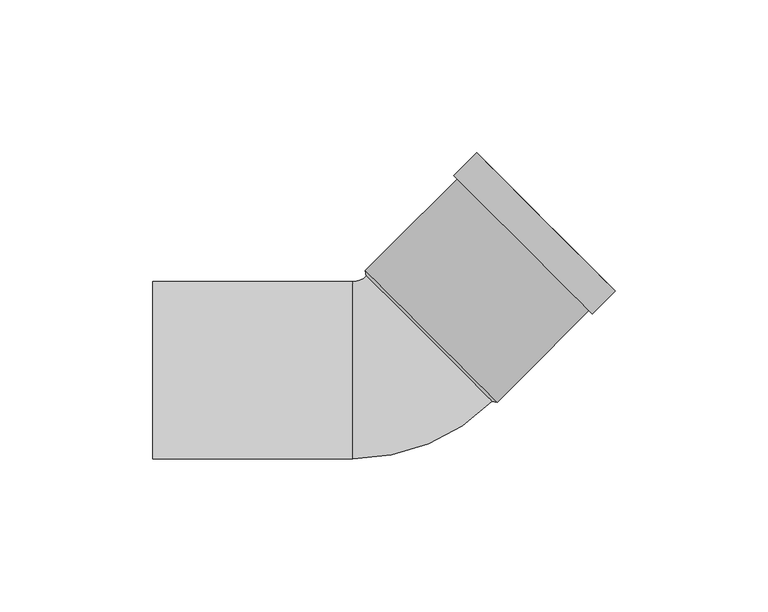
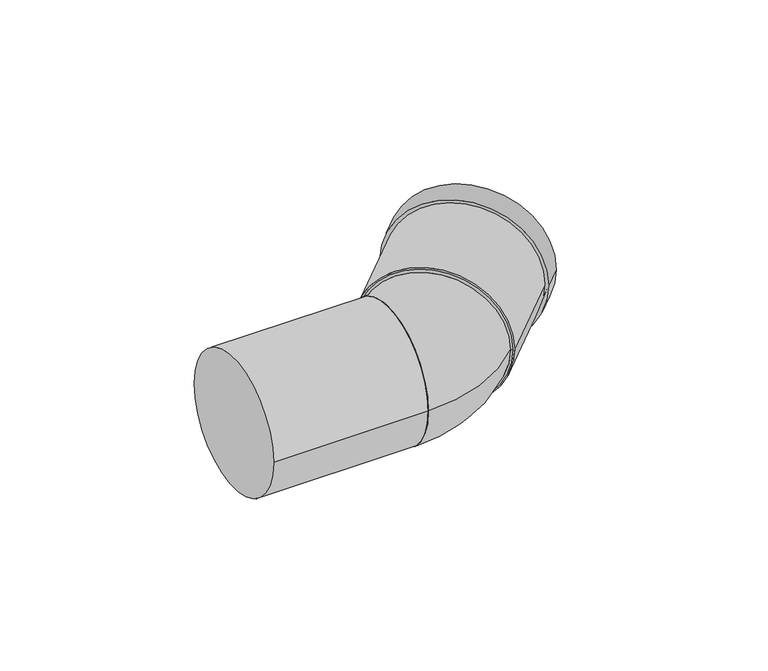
"""IFC4 building model written with IfcOpenShell, lengths in millimetres: pipe fitting geometry, Superdrain SKB Bend : Superdrain SKB Bend."""

from ifc_helpers import new_model, si_unit, point, frame, origin, origin_2d, place, context, project, spatial, polyline, circle_curve, ellipse_curve, trimmed, segment, composite_curve, outline, extrude, source, transform, mapped, element, save
from ifc_brep_helpers import plane_surface, revolved_surface, advanced_brep


def pipe_fitting_4f15ce90(model_context):
    return source(origin(), model_context, "Body", "SolidModel", [
        advanced_brep(
        [(30.8298557, -10.1823376, 0.0), (-10.1823376, 30.8298557, 0.0), (-14.6, -29.0, 0.0), (-14.6, 29.0, 0.0)],
        [
            (0, 1, circle_curve(frame((10.323759, 10.323759, 0.0), z_axis=(0.7071067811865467, 0.7071067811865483, 0.0), x_axis=(-0.7071067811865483, 0.7071067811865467, 0.0)), 29.0)),
            (1, 0, circle_curve(frame((10.323759, 10.323759, 0.0), z_axis=(0.7071067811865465, 0.7071067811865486, 0.0), x_axis=(-0.7071067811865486, 0.7071067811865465, 0.0)), 29.0)),
            (2, 3, circle_curve(frame((-14.6, 0.0, 0.0), z_axis=(-1.0, 0.0, 0.0), x_axis=(0.0, 1.0, 0.0)), 29.0)),
            (3, 2, circle_curve(frame((-14.6, 0.0, 0.0), z_axis=(-1.0, 0.0, 0.0), x_axis=(0.0, 1.0, 0.0)), 29.0)),
            (3, 1, circle_curve(frame((-14.6, 35.247518, 0.0), z_axis=(0.0, 0.0, 1.0), x_axis=(1.0, 0.0, 0.0)), 6.247518)),
            (0, 2, circle_curve(frame((-14.6, 35.247518, 0.0), z_axis=(0.0, 0.0, -1.0), x_axis=(1.0, 0.0, 0.0)), 64.247518)),
        ],
        [
            plane_surface(frame((10.323759, 10.323759, 0.0), z_axis=(0.7071067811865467, 0.7071067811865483, 0.0), x_axis=(0.0, 0.0, -1.0))),
            plane_surface(frame((-14.6, 0.0, 0.0), z_axis=(-1.0, 0.0, 0.0), x_axis=(0.0, 0.0, -1.0))),
            revolved_surface(trimmed(ellipse_curve(frame((20.647518, 35.247518, 0.0), z_axis=(0.0, -1.0, 0.0), x_axis=(-1.0, 0.0, 0.0)), 29.0, 29.0), [point((-8.352482, 35.247518, 0.0))], [point((49.647518, 35.247518, 0.0))], True, "CARTESIAN"), (-14.6, 35.247518, 0.0), (0.0, 0.0, 1.0)),
            revolved_surface(trimmed(ellipse_curve(frame((20.647518, 35.247518, 0.0), z_axis=(0.0, -1.0, 0.0), x_axis=(-1.0, 0.0, 0.0)), 29.0, 29.0), [point((49.647518, 35.247518, 0.0))], [point((-8.352482, 35.247518, 0.0))], True, "CARTESIAN"), (-14.6, 35.247518, 0.0), (0.0, 0.0, 1.0)),
        ],
        [
            (0, [[1, 2]]),
            (1, [[3, 4]]),
            (2, [[-4, 5, -1, 6]]),
            (3, [[-3, -6, -2, -5]]),
        ],
    ),
        extrude(outline(composite_curve([segment(trimmed(circle_curve(origin_2d(), 30.45), [point((0.0, 30.45))], [point((0.0, -30.45))], False, "CARTESIAN"), True, "CONTINUOUS"), segment(trimmed(circle_curve(origin_2d(), 30.45), [point((0.0, -30.45))], [point((0.0, 30.45))], False, "CARTESIAN"), True, "CONTINUOUS")], self_intersect=False), holes=[composite_curve([segment(trimmed(circle_curve(origin_2d(), 29.0), [point((0.0, 29.0))], [point((0.0, -29.0))], True, "CARTESIAN"), True, "CONTINUOUS"), segment(trimmed(circle_curve(origin_2d(), 29.0), [point((0.0, -29.0))], [point((0.0, 29.0))], True, "CARTESIAN"), True, "CONTINUOUS")], self_intersect=False)]), frame((11.0308658, 11.0308658, 0.0), z_axis=(0.7071067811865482, 0.7071067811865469, 0.0), x_axis=(0.0, 0.0, 1.0)), (0.0, 0.0, 1.0), 53.0),
        extrude(outline(composite_curve([segment(trimmed(circle_curve(origin_2d(), 31.9725), [point((0.0, -31.9725001))], [point((0.0, 31.9725001))], False, "CARTESIAN"), True, "CONTINUOUS"), segment(trimmed(circle_curve(origin_2d(), 31.9725), [point((0.0, 31.9725001))], [point((0.0, -31.9725001))], False, "CARTESIAN"), True, "CONTINUOUS")], self_intersect=False), holes=[composite_curve([segment(trimmed(circle_curve(origin_2d(), 29.0), [point((0.0, -29.0))], [point((0.0, 29.0))], True, "CARTESIAN"), True, "CONTINUOUS"), segment(trimmed(circle_curve(origin_2d(), 29.0), [point((0.0, 29.0))], [point((0.0, -29.0))], True, "CARTESIAN"), True, "CONTINUOUS")], self_intersect=False)]), frame((41.0121933, 41.0121933, 0.0), z_axis=(0.7071067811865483, 0.7071067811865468, 0.0), x_axis=(0.0, 0.0, 1.0)), (0.0, 0.0, 1.0), 10.6),
        advanced_brep(
        [(32.5622673, -10.5005357, 0.0), (-10.5005357, 32.5622673, 0.0), (30.8298557, -10.1823376, 0.0), (-10.1823376, 30.8298557, 0.0)],
        [
            (0, 1, circle_curve(frame((11.0308658, 11.0308658, 0.0), z_axis=(0.7071067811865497, 0.7071067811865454, 0.0), x_axis=(0.7071067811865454, -0.7071067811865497, 0.0)), 30.45)),
            (1, 0, circle_curve(frame((11.0308658, 11.0308658, 0.0), z_axis=(0.7071067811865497, 0.7071067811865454, 0.0), x_axis=(-0.7071067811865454, 0.7071067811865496, 0.0)), 30.45)),
            (2, 3, circle_curve(frame((10.323759, 10.323759, 0.0), z_axis=(-0.7071067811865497, -0.7071067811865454, 0.0), x_axis=(-0.7071067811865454, 0.7071067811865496, 0.0)), 29.0)),
            (3, 2, circle_curve(frame((10.323759, 10.323759, 0.0), z_axis=(-0.7071067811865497, -0.7071067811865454, 0.0), x_axis=(0.7071067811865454, -0.7071067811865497, 0.0)), 29.0)),
            (3, 1),
            (0, 2),
        ],
        [
            plane_surface(frame((11.0308658, 11.0308658, 0.0), z_axis=(0.7071067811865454, 0.7071067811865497, 0.0), x_axis=(0.0, 0.0, -1.0))),
            plane_surface(frame((10.323759, 10.323759, 0.0), z_axis=(-0.7071067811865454, -0.7071067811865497, 0.0), x_axis=(0.0, 0.0, -1.0))),
            revolved_surface(polyline([(-10.182337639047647, 30.82985563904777, 0.0), (-10.500535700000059, 32.56226730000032, 0.0)]), (-3.8183766, -3.8183766, 0.0), (0.7071067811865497, 0.7071067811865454, 0.0)),
            revolved_surface(polyline([(30.829855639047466, -10.18233763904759, 0.0), (32.5622673, -10.5005357, 0.0)]), (-3.8183766, -3.8183766, 0.0), (0.7071067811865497, 0.7071067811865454, 0.0)),
        ],
        [
            (0, [[1, 2]]),
            (1, [[3, 4]]),
            (2, [[-4, 5, -1, 6]]),
            (3, [[-3, -6, -2, -5]]),
        ],
    ),
        extrude(outline(composite_curve([segment(trimmed(circle_curve(origin_2d(), 29.0), [point((-29.0, 0.0))], [point((29.0, 0.0))], False, "CARTESIAN"), True, "CONTINUOUS"), segment(trimmed(circle_curve(origin_2d(), 29.0), [point((29.0, 0.0))], [point((-29.0, 0.0))], False, "CARTESIAN"), True, "CONTINUOUS")], self_intersect=False)), frame((-80.0, 0.0, 0.0), z_axis=(1.0, 0.0, 0.0), x_axis=(0.0, 1.0, 0.0)), (0.0, 0.0, 1.0), 65.4),
    ])


if __name__ == "__main__":
    model = new_model("IFC4")
    model_context = context("Model", 3, world=origin())
    ifc_project = project(units=[si_unit("LENGTHUNIT", "METRE", prefix="MILLI")], contexts=[model_context])
    site = spatial("IfcSite", under=ifc_project)
    building = spatial("IfcBuilding", under=site)
    placement = place(None, origin())
    pipe_fitting_shape = pipe_fitting_4f15ce90(model_context)
    element("IfcPipeFitting", 1, ObjectType="Superdrain SKB Bend : Superdrain SKB Bend", at=placement, inside=building, context=model_context, shape_type="MappedRepresentation", body=[
        mapped(pipe_fitting_shape, transform((0.0, 0.0, 0.0), x_axis=(1.0, 0.0, 0.0), y_axis=(0.0, 1.0, 0.0), z_axis=(0.0, 0.0, 1.0))),
    ])
    save(model, "model.ifc")
